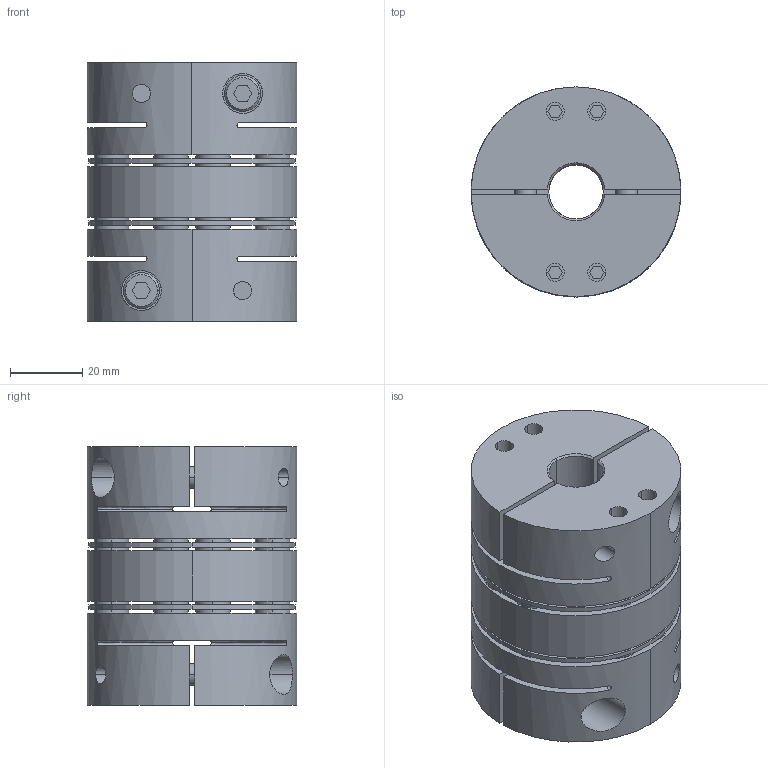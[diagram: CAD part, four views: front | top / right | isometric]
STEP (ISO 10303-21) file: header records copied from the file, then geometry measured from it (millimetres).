
FILE_DESCRIPTION((''),'2;1');
FILE_NAME('TAD-58C-15×15.stp','2022-11-13T21:55:52',(''),(''),'AutoCAD STEP 2000i','AutoCAD 2000i',', , ');
FILE_SCHEMA(('CONFIG_CONTROL_DESIGN'));
Length unit declared in the file: millimetre
Products named in the file (6): TAD-58C-12×12; 忣兜1; TA58C-12-2; CAP-M6×20; TA58C-12; TAS-58C-ITA
Assembly tree (6 placements, depth 3):
  TAD-58C-12×12
    忣兜1
    TA58C-12-2
      CAP-M6×20
    TA58C-12
      CAP-M6×20
    TAS-58C-ITA
Bounding box: 58 x 58 x 71.5 mm (x, y, z)
Volume: 139597.4 mm3; surface area: 56420.6 mm2
Topology: 1 solids, 5 shells, 568 faces, 1360 edges, 920 vertices
Faces by surface type: plane 252, cylinder 228, cone 72, bspline 16
Entity records: 18597 total; most frequent: CARTESIAN_POINT 4815, DIRECTION 2994, ORIENTED_EDGE 2640, EDGE_CURVE 1320, AXIS2_PLACEMENT_3D 1139, VERTEX_POINT 860, EDGE_LOOP 724, VECTOR 716
